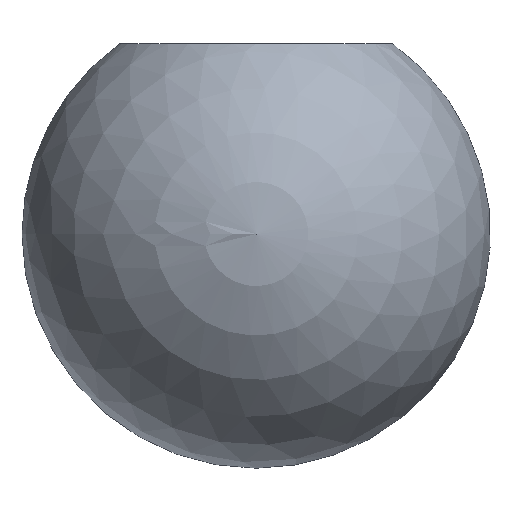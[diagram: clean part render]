
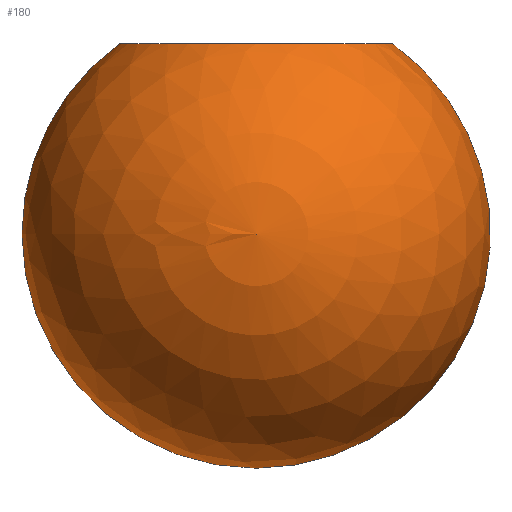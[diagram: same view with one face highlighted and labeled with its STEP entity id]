
A CAD part, left-side view. The second image highlights one B-rep face of the part: STEP entity #180.
In plain terms, the highlighted spherical face has radius 16 mm.
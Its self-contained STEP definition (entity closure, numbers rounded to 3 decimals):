
#16 = CARTESIAN_POINT ( 'NONE',  ( 0., -9.327, 0. ) ) ;
#41 = CIRCLE ( 'NONE', #317, 9.327 ) ;
#49 = EDGE_CURVE ( 'NONE', #311, #363, #41, .T. ) ;
#58 = ORIENTED_EDGE ( 'NONE', *, *, #459, .F. ) ;
#60 = CARTESIAN_POINT ( 'NONE',  ( 0., 0., -13. ) ) ;
#78 = CARTESIAN_POINT ( 'NONE',  ( 0., 0., -13. ) ) ;
#133 = DIRECTION ( 'NONE',  ( 0., 0., -1. ) ) ;
#144 = DIRECTION ( 'NONE',  ( -1., 0., 0. ) ) ;
#173 = CARTESIAN_POINT ( 'NONE',  ( 0., 0., -13. ) ) ;
#176 = DIRECTION ( 'NONE',  ( -1., 0., 0. ) ) ;
#179 = DIRECTION ( 'NONE',  ( 0., 0., 1. ) ) ;
#180 = ADVANCED_FACE ( 'NONE', ( #413 ), #287, .T. ) ;
#215 = CIRCLE ( 'NONE', #379, 16. ) ;
#219 = DIRECTION ( 'NONE',  ( 0., -1., 0. ) ) ;
#230 = AXIS2_PLACEMENT_3D ( 'NONE', #78, #144, #441 ) ;
#283 = CARTESIAN_POINT ( 'NONE',  ( 0., 0., -29. ) ) ;
#287 = SPHERICAL_SURFACE ( 'NONE', #230, 16. ) ;
#311 = VERTEX_POINT ( 'NONE', #362 ) ;
#312 = DIRECTION ( 'NONE',  ( 1., 0., 0. ) ) ;
#314 = DIRECTION ( 'NONE',  ( 1., 0., 0. ) ) ;
#317 = AXIS2_PLACEMENT_3D ( 'NONE', #356, #179, #312 ) ;
#329 = CIRCLE ( 'NONE', #523, 16. ) ;
#356 = CARTESIAN_POINT ( 'NONE',  ( 0., 0., 0. ) ) ;
#362 = CARTESIAN_POINT ( 'NONE',  ( 0., 9.327, 0. ) ) ;
#363 = VERTEX_POINT ( 'NONE', #16 ) ;
#366 = VERTEX_POINT ( 'NONE', #283 ) ;
#379 = AXIS2_PLACEMENT_3D ( 'NONE', #173, #176, #219 ) ;
#413 = FACE_OUTER_BOUND ( 'NONE', #470, .T. ) ;
#440 = ORIENTED_EDGE ( 'NONE', *, *, #49, .F. ) ;
#441 = DIRECTION ( 'NONE',  ( 0., 1., 0. ) ) ;
#459 = EDGE_CURVE ( 'NONE', #366, #311, #329, .T. ) ;
#462 = ORIENTED_EDGE ( 'NONE', *, *, #514, .T. ) ;
#470 = EDGE_LOOP ( 'NONE', ( #58, #462, #440 ) ) ;
#514 = EDGE_CURVE ( 'NONE', #366, #363, #215, .T. ) ;
#523 = AXIS2_PLACEMENT_3D ( 'NONE', #60, #314, #133 ) ;
